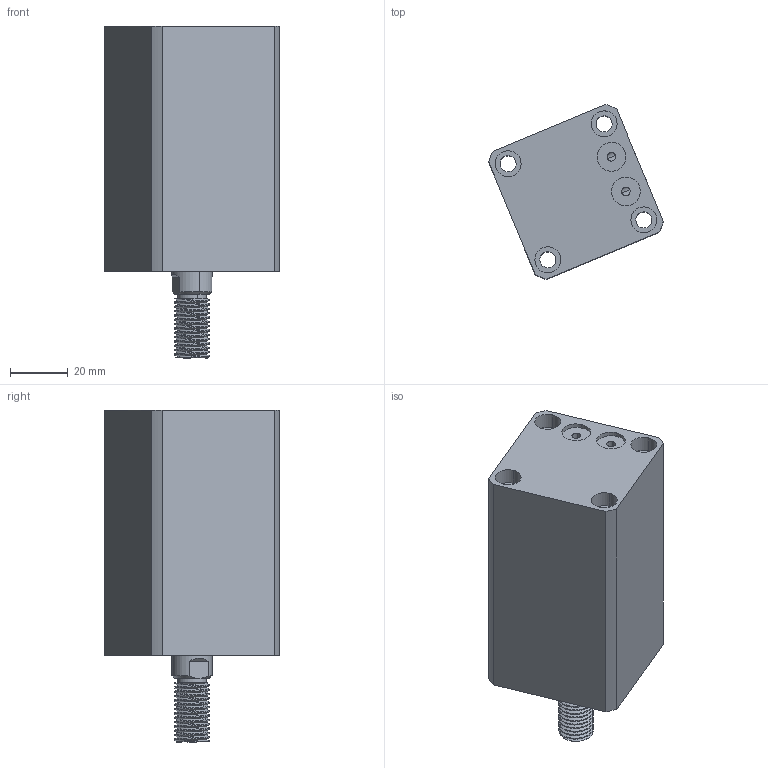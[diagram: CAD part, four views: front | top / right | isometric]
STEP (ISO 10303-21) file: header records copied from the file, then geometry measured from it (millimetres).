
FILE_DESCRIPTION (( 'STEP AP214' ), '1' );
FILE_NAME ('chtb-sdmb25x40w_asm.STEP', '2018-05-24T02:31:40', ( 'Windows' ), ( 'Microsoft' ), 'SwSTEP 2.0', 'SolidWorks 2015', '' );
FILE_SCHEMA (( 'AUTOMOTIVE_DESIGN' ));
Length unit declared in the file: millimetre
Products named in the file (4): CHTB-SDMB25X40NBT; CHTB-25QG; chtb-sdmb25x40w_asm; CHTB-SDMB25X40WHSG
Assembly tree (3 placements, depth 2):
  chtb-sdmb25x40w_asm
    CHTB-25QG
    CHTB-SDMB25X40NBT
    CHTB-SDMB25X40WHSG
Bounding box: 60.55 x 60.55 x 115 mm (x, y, z)
Volume: 172426.6 mm3; surface area: 45909.9 mm2
Topology: 3 solids, 3 shells, 176 faces, 476 edges, 323 vertices
Faces by surface type: cylinder 118, plane 37, bspline 12, cone 9
Entity records: 10721 total; most frequent: CARTESIAN_POINT 6406, ORIENTED_EDGE 944, DIRECTION 765, EDGE_CURVE 472, VERTEX_POINT 323, AXIS2_PLACEMENT_3D 310, EDGE_LOOP 215, ADVANCED_FACE 176
